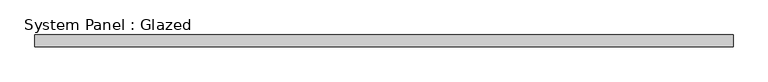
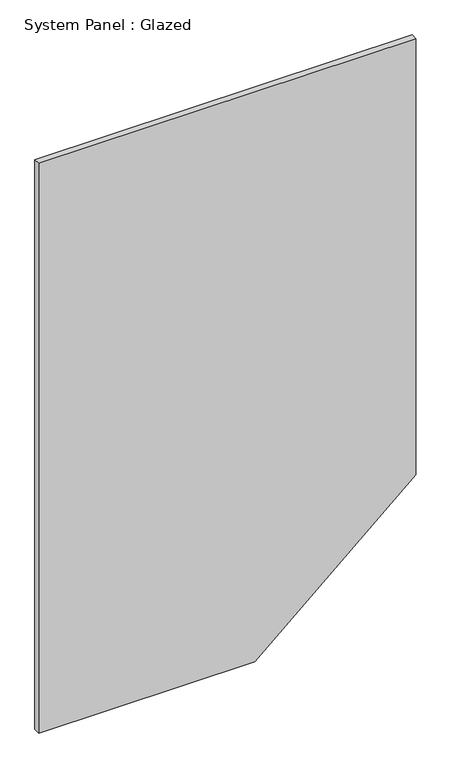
"""IFC4 building model written with IfcOpenShell, lengths in millimetres: plate geometry, System Panel : Glazed."""

from ifc_helpers import new_model, si_unit, frame, origin, place, context, project, spatial, polyline, outline, extrude, source, transform, mapped, element, save


def system_panel_glazed_2691dc90(model_context):
    return source(origin(), model_context, "Body", "SweptSolid", [
        extrude(outline(polyline([(0.0, -735.8695652), (0.0, 107.2059536), (551.1854413, 735.8695652), (2350.0, 735.8695652), (2350.0, -735.8695652), (0.0, -735.8695652)])), frame((0.0, 24.5, 0.0), z_axis=(0.0, 1.0, 0.0), x_axis=(0.0, 0.0, 1.0)), (0.0, 0.0, 1.0), 25.0),
    ])


if __name__ == "__main__":
    model = new_model("IFC4")
    model_context = context("Model", 3, world=origin())
    ifc_project = project(units=[si_unit("LENGTHUNIT", "METRE", prefix="MILLI")], contexts=[model_context])
    site = spatial("IfcSite", under=ifc_project)
    building = spatial("IfcBuilding", under=site)
    placement = place(None, origin())
    system_panel_glazed_shape = system_panel_glazed_2691dc90(model_context)
    element("IfcPlate", 1, ObjectType="System Panel : Glazed", at=placement, inside=building, context=model_context, shape_type="MappedRepresentation", body=[
        mapped(system_panel_glazed_shape, transform((0.0, 0.0, 0.0), x_axis=(1.0, 0.0, 0.0), y_axis=(0.0, 1.0, 0.0), z_axis=(0.0, 0.0, 1.0))),
    ])
    save(model, "model.ifc")
